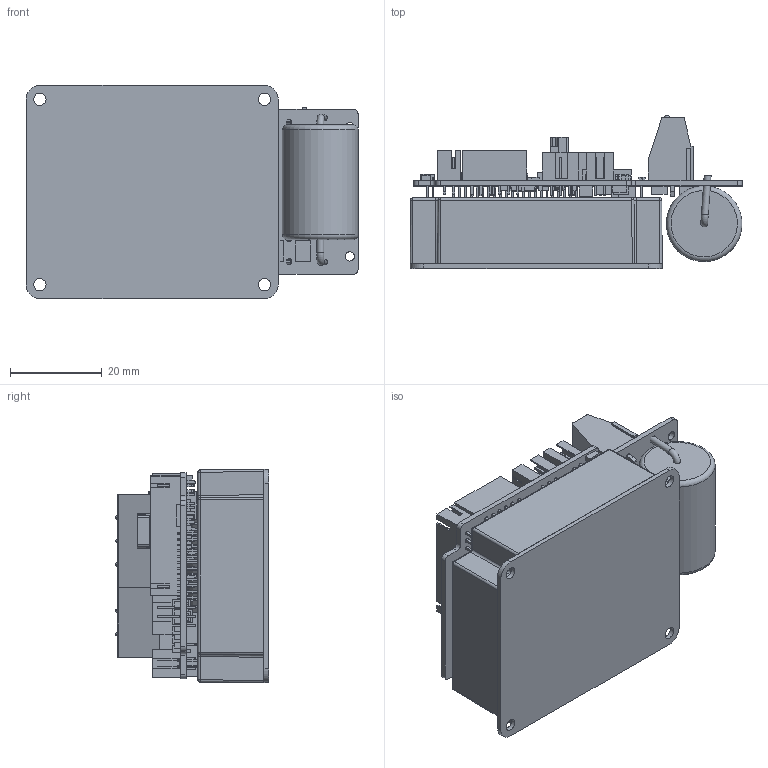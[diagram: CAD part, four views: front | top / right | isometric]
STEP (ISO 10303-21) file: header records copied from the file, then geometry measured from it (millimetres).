
FILE_DESCRIPTION (( 'STEP AP203' ), '1' );
FILE_NAME ('G WHI CAN.STEP', '2014-08-24T12:42:29', ( 'YAEL' ), ( 'Microsoft' ), 'SwSTEP 2.0', 'SolidWorks 2013', '' );
FILE_SCHEMA (( 'CONFIG_CONTROL_DESIGN' ));
Length unit declared in the file: millimetre
Products named in the file (1): G WHI CAN
Bounding box: 72.44 x 33.4 x 46.54 mm (x, y, z)
Volume: 25615.5 mm3; surface area: 36835.4 mm2
Topology: 101 solids, 101 shells, 4162 faces, 10616 edges, 7056 vertices
Faces by surface type: plane 3605, cylinder 531, bspline 14, sphere 8, torus 4
Full cylindrical faces by diameter (mm): 0.154 x7, 0.165 x3, 0.2 x3, 0.212 x1, 0.216 x1, 0.217 x1, 0.298 x2, 0.303 x7, 0.309 x1, 0.61 x5, 0.711 x72, 0.813 x18, 0.889 x13, 0.914 x60, 1.016 x8, 1.2 x13, 1.295 x9, 1.5 x3, 1.6 x4, 2.007 x7, 2.286 x2, 2.7 x4, 3.2 x4, 16.5 x1
Entity records: 122298 total; most frequent: CARTESIAN_POINT 21848, ORIENTED_EDGE 20280, DIRECTION 19428, EDGE_CURVE 10140, VECTOR 8958, LINE 8958, VERTEX_POINT 6851, EDGE_LOOP 5437
